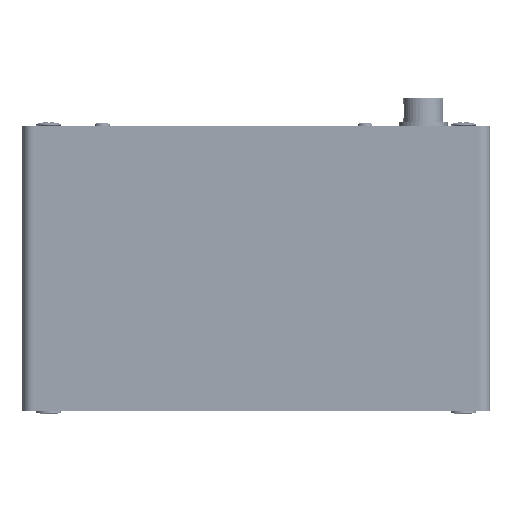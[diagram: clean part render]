
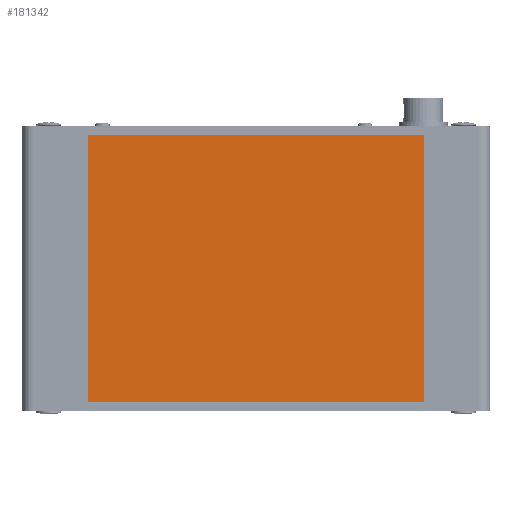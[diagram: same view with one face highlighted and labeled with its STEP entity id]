
A CAD part, front view. The second image highlights one B-rep face of the part: STEP entity #181342.
In plain terms, the highlighted planar face has unit normal (0, -1, 0).
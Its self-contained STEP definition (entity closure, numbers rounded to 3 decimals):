
#3919 = DIRECTION ( 'NONE',  ( 0., 0., 1. ) ) ;
#5601 = VERTEX_POINT ( 'NONE', #182472 ) ;
#5715 = AXIS2_PLACEMENT_3D ( 'NONE', #147203, #175796, #176715 ) ;
#8263 = VERTEX_POINT ( 'NONE', #56127 ) ;
#15134 = FACE_OUTER_BOUND ( 'NONE', #122184, .T. ) ;
#16352 = LINE ( 'NONE', #49565, #75932 ) ;
#21586 = CARTESIAN_POINT ( 'NONE',  ( 37.75, 0., 30. ) ) ;
#23461 = CARTESIAN_POINT ( 'NONE',  ( -37.75, 0., -30. ) ) ;
#32550 = VECTOR ( 'NONE', #101523, 1000. ) ;
#43528 = LINE ( 'NONE', #82616, #32550 ) ;
#43891 = ORIENTED_EDGE ( 'NONE', *, *, #173821, .T. ) ;
#49565 = CARTESIAN_POINT ( 'NONE',  ( -37.75, 0., -30. ) ) ;
#50095 = DIRECTION ( 'NONE',  ( -1., 0., 0. ) ) ;
#56127 = CARTESIAN_POINT ( 'NONE',  ( 37.75, 0., 30. ) ) ;
#73728 = EDGE_CURVE ( 'NONE', #5601, #186138, #124225, .T. ) ;
#75932 = VECTOR ( 'NONE', #3919, 1000. ) ;
#77687 = LINE ( 'NONE', #21586, #138231 ) ;
#82616 = CARTESIAN_POINT ( 'NONE',  ( 37.75, 0., -30. ) ) ;
#100737 = PLANE ( 'NONE',  #5715 ) ;
#101523 = DIRECTION ( 'NONE',  ( 0., 0., 1. ) ) ;
#101653 = EDGE_CURVE ( 'NONE', #186138, #8263, #43528, .T. ) ;
#122184 = EDGE_LOOP ( 'NONE', ( #43891, #133699, #131519, #168118 ) ) ;
#123287 = DIRECTION ( 'NONE',  ( 1., 0., 0. ) ) ;
#124225 = LINE ( 'NONE', #23461, #161390 ) ;
#126936 = VERTEX_POINT ( 'NONE', #151609 ) ;
#131519 = ORIENTED_EDGE ( 'NONE', *, *, #73728, .T. ) ;
#133699 = ORIENTED_EDGE ( 'NONE', *, *, #186165, .F. ) ;
#138231 = VECTOR ( 'NONE', #50095, 1000. ) ;
#147203 = CARTESIAN_POINT ( 'NONE',  ( 37.75, 0., -30. ) ) ;
#151609 = CARTESIAN_POINT ( 'NONE',  ( -37.75, 0., 30. ) ) ;
#161390 = VECTOR ( 'NONE', #123287, 1000. ) ;
#168118 = ORIENTED_EDGE ( 'NONE', *, *, #101653, .T. ) ;
#173821 = EDGE_CURVE ( 'NONE', #8263, #126936, #77687, .T. ) ;
#175796 = DIRECTION ( 'NONE',  ( 0., -1., 0. ) ) ;
#176715 = DIRECTION ( 'NONE',  ( 0., 0., -1. ) ) ;
#181342 = ADVANCED_FACE ( 'NONE', ( #15134 ), #100737, .T. ) ;
#182472 = CARTESIAN_POINT ( 'NONE',  ( -37.75, 0., -30. ) ) ;
#186138 = VERTEX_POINT ( 'NONE', #187534 ) ;
#186165 = EDGE_CURVE ( 'NONE', #5601, #126936, #16352, .T. ) ;
#187534 = CARTESIAN_POINT ( 'NONE',  ( 37.75, 0., -30. ) ) ;
